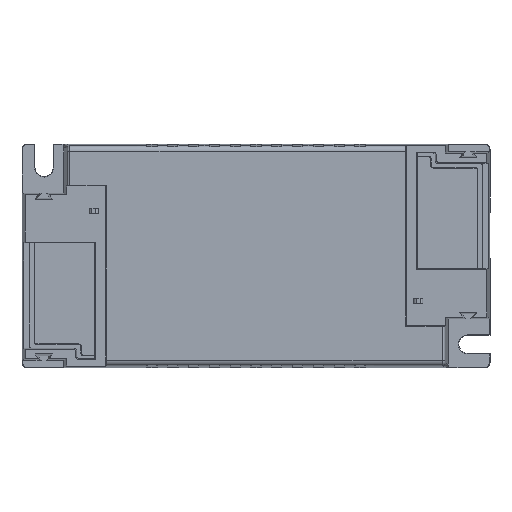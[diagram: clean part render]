
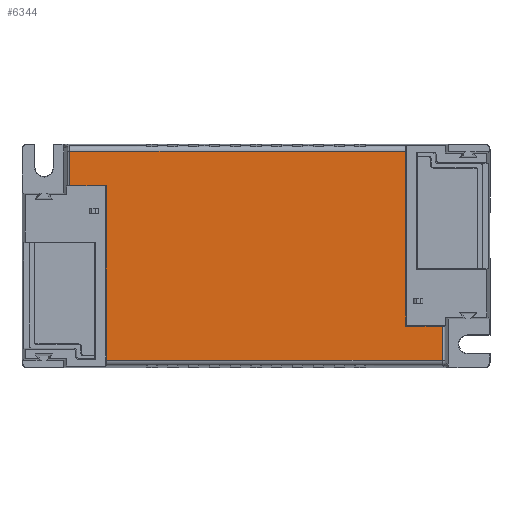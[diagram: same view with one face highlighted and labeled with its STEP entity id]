
A CAD part, top view. The second image highlights one B-rep face of the part: STEP entity #6344.
In plain terms, the highlighted planar face has unit normal (0, 0, 1).
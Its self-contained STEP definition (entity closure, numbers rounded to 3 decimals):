
#208=PLANE('',#6786);
#814=LINE('',#10094,#1552);
#815=LINE('',#10097,#1553);
#816=LINE('',#10099,#1554);
#817=LINE('',#10101,#1555);
#818=LINE('',#10103,#1556);
#819=LINE('',#10105,#1557);
#820=LINE('',#10107,#1558);
#821=LINE('',#10109,#1559);
#1552=VECTOR('',#7878,1000.);
#1553=VECTOR('',#7879,1000.);
#1554=VECTOR('',#7880,1000.);
#1555=VECTOR('',#7881,1000.);
#1556=VECTOR('',#7882,1000.);
#1557=VECTOR('',#7883,1000.);
#1558=VECTOR('',#7884,1000.);
#1559=VECTOR('',#7885,1000.);
#2584=ORIENTED_EDGE('',*,*,#4324,.T.);
#2585=ORIENTED_EDGE('',*,*,#4325,.T.);
#2586=ORIENTED_EDGE('',*,*,#4326,.T.);
#2587=ORIENTED_EDGE('',*,*,#4327,.T.);
#2588=ORIENTED_EDGE('',*,*,#4328,.T.);
#2589=ORIENTED_EDGE('',*,*,#4329,.T.);
#2590=ORIENTED_EDGE('',*,*,#4330,.T.);
#2591=ORIENTED_EDGE('',*,*,#4331,.T.);
#4324=EDGE_CURVE('',#5169,#5170,#814,.F.);
#4325=EDGE_CURVE('',#5170,#5171,#815,.T.);
#4326=EDGE_CURVE('',#5171,#5172,#816,.T.);
#4327=EDGE_CURVE('',#5172,#5173,#817,.T.);
#4328=EDGE_CURVE('',#5173,#5174,#818,.F.);
#4329=EDGE_CURVE('',#5174,#5175,#819,.T.);
#4330=EDGE_CURVE('',#5175,#5176,#820,.T.);
#4331=EDGE_CURVE('',#5176,#5169,#821,.T.);
#5169=VERTEX_POINT('',#10095);
#5170=VERTEX_POINT('',#10096);
#5171=VERTEX_POINT('',#10098);
#5172=VERTEX_POINT('',#10100);
#5173=VERTEX_POINT('',#10102);
#5174=VERTEX_POINT('',#10104);
#5175=VERTEX_POINT('',#10106);
#5176=VERTEX_POINT('',#10108);
#5560=EDGE_LOOP('',(#2584,#2585,#2586,#2587,#2588,#2589,#2590,#2591));
#5904=FACE_BOUND('',#5560,.T.);
#6344=ADVANCED_FACE('',(#5904),#208,.T.);
#6786=AXIS2_PLACEMENT_3D('',#10093,#7876,#7877);
#7876=DIRECTION('',(0.,0.,1.));
#7877=DIRECTION('',(1.,0.,0.));
#7878=DIRECTION('',(-1.,0.,0.));
#7879=DIRECTION('',(0.,1.,0.));
#7880=DIRECTION('',(-1.,0.,0.));
#7881=DIRECTION('',(0.,1.,0.));
#7882=DIRECTION('',(1.,0.,0.));
#7883=DIRECTION('',(0.,-1.,0.));
#7884=DIRECTION('',(1.,0.,0.));
#7885=DIRECTION('',(0.,-1.,0.));
#10093=CARTESIAN_POINT('',(0.,0.,22.));
#10094=CARTESIAN_POINT('',(36.302,-20.133,22.));
#10095=CARTESIAN_POINT('',(-28.791,-20.133,22.));
#10096=CARTESIAN_POINT('',(35.819,-20.133,22.));
#10097=CARTESIAN_POINT('',(35.819,-13.509,22.));
#10098=CARTESIAN_POINT('',(35.819,-13.509,22.));
#10099=CARTESIAN_POINT('',(0.,-13.509,22.));
#10100=CARTESIAN_POINT('',(28.791,-13.509,22.));
#10101=CARTESIAN_POINT('',(28.791,0.,22.));
#10102=CARTESIAN_POINT('',(28.791,20.133,22.));
#10103=CARTESIAN_POINT('',(-36.302,20.133,22.));
#10104=CARTESIAN_POINT('',(-35.819,20.133,22.));
#10105=CARTESIAN_POINT('',(-35.819,13.509,22.));
#10106=CARTESIAN_POINT('',(-35.819,13.509,22.));
#10107=CARTESIAN_POINT('',(0.,13.509,22.));
#10108=CARTESIAN_POINT('',(-28.791,13.509,22.));
#10109=CARTESIAN_POINT('',(-28.791,0.,22.));
